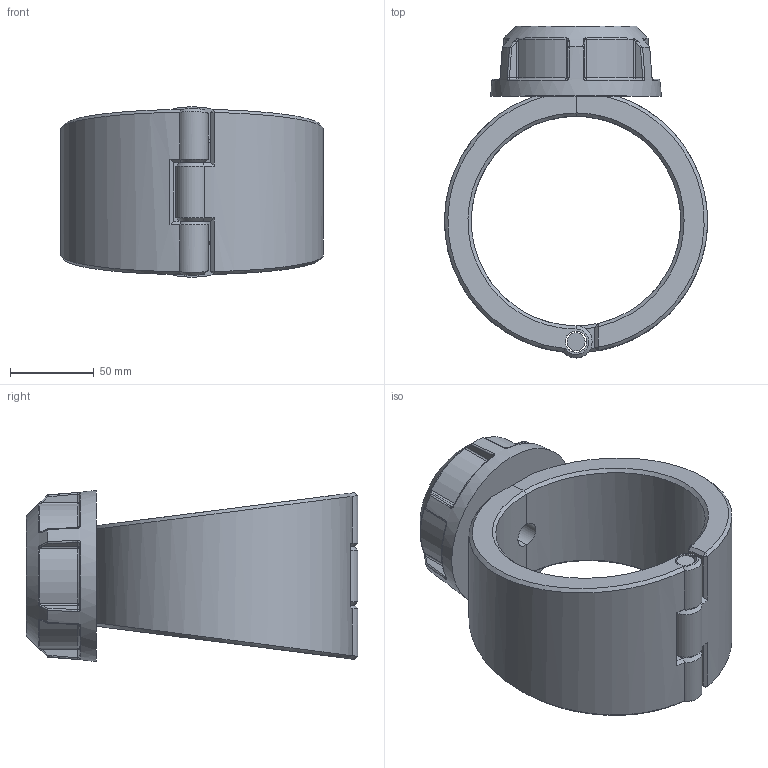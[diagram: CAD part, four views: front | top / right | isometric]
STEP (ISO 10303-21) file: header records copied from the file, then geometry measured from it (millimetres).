
FILE_DESCRIPTION(/* description */ ('Plassadle Threaded 125x1'''''),/* implementation_level */ '2;1');
FILE_NAME(/* name */ 'C:\Users\comp2\Dropbox\99-16-3568-Processing\Mechanical Fittings\16300\stp\163000125010.stp',/* time_stamp */ '2022-02-03T11:50:45+00:00',/* author */ ('comp2'),/* organization */ (''),/* preprocessor_version */ 'ST-DEVELOPER v17.2',/* originating_system */ 'Autodesk Inventor 2019',/* authorisation */ '');
FILE_SCHEMA (('AUTOMOTIVE_DESIGN { 1 0 10303 214 3 1 1 }'));
Length unit declared in the file: millimetre
Products named in the file (1): 163000125010
Bounding box: 156.96 x 198 x 102 mm (x, y, z)
Volume: 784196.6 mm3; surface area: 123706.7 mm2
Topology: 4 solids, 4 shells, 203 faces, 486 edges, 293 vertices
Faces by surface type: bspline 58, plane 53, cylinder 47, torus 18, cone 15, sphere 12
Full cylindrical faces by diameter (mm): 10.74 x1, 12.74 x3, 15.146 x1, 25.747 x1, 30.291 x1, 45.437 x1
Entity records: 8235 total; most frequent: CARTESIAN_POINT 3888, ORIENTED_EDGE 972, DIRECTION 781, EDGE_CURVE 486, AXIS2_PLACEMENT_3D 330, VERTEX_POINT 293, EDGE_LOOP 213, FACE_OUTER_BOUND 203
